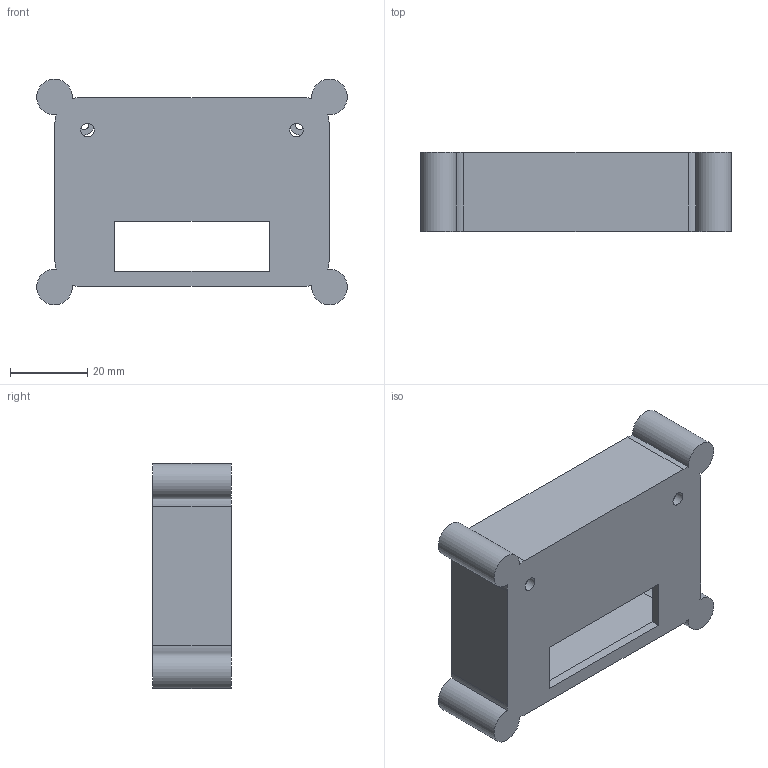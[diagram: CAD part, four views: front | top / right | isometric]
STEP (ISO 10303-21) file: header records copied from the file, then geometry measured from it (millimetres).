
FILE_DESCRIPTION(('Open CASCADE Model'),'2;1');
FILE_NAME('Open CASCADE Shape Model','2026-11-19T06:38:54',('Author'),( 'Open CASCADE'),'Open CASCADE STEP processor 8.0','Open CASCADE 8.0' ,'Unknown');
FILE_SCHEMA(('AUTOMOTIVE_DESIGN { 1 0 10303 214 1 1 1 1 }'));
Length unit declared in the file: millimetre
Products named in the file (1): Open CASCADE STEP translator 8.0 7
Bounding box: 80.22 x 20.4 x 58.22 mm (x, y, z)
Volume: 21220.7 mm3; surface area: 17031.3 mm2
Topology: 1 solids, 1 shells, 59 faces, 150 edges, 100 vertices
Faces by surface type: cylinder 30, plane 29
Full cylindrical faces by diameter (mm): 2.35 x4, 2.75 x4, 3.55 x2, 5.2 x4
Entity records: 3794 total; most frequent: CARTESIAN_POINT 742, DIRECTION 584, ORIENTED_EDGE 300, PCURVE 300, DEFINITIONAL_REPRESENTATION 300, LINE 250, VECTOR 250, EDGE_CURVE 150
